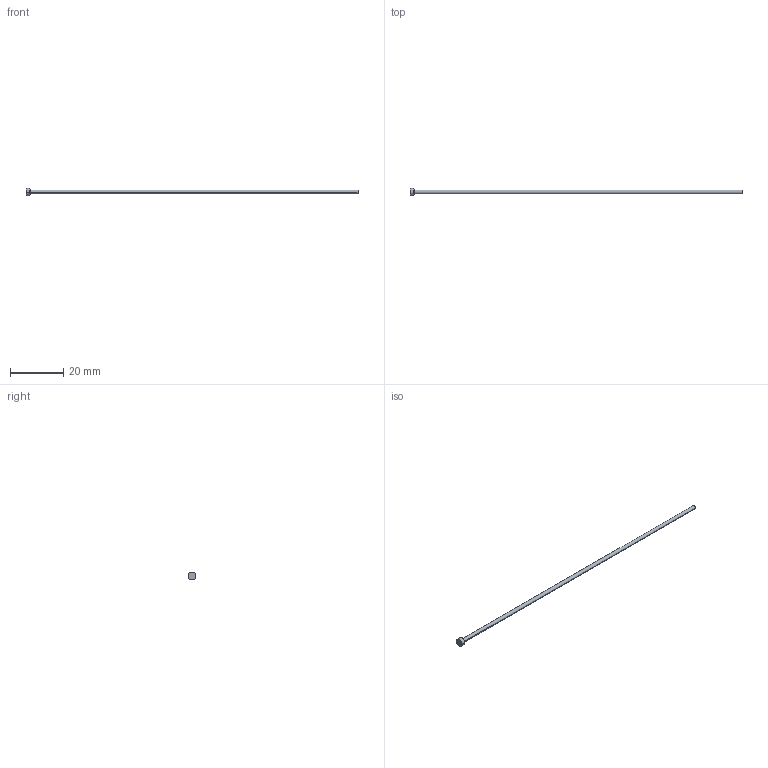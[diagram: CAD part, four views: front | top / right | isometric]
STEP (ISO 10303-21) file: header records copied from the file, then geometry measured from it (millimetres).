
FILE_DESCRIPTION (( 'STEP AP214' ), '1' );
FILE_NAME ('A-1,5x125.STEP', '2020-05-28T16:37:12', ( 'August' ), ( '' ), 'SwSTEP 2.0', 'SolidWorks 2018', '' );
FILE_SCHEMA (( 'AUTOMOTIVE_DESIGN' ));
Length unit declared in the file: millimetre
Products named in the file (1): A-1,5x125
Bounding box: 125 x 3 x 3 mm (x, y, z)
Volume: 228.9 mm3; surface area: 609.9 mm2
Topology: 1 solids, 1 shells, 9 faces, 16 edges, 10 vertices
Faces by surface type: cylinder 4, plane 3, torus 2
Entity records: 260 total; most frequent: DIRECTION 48, CARTESIAN_POINT 36, ORIENTED_EDGE 32, AXIS2_PLACEMENT_3D 22, EDGE_CURVE 16, CIRCLE 12, VERTEX_POINT 10, EDGE_LOOP 10
